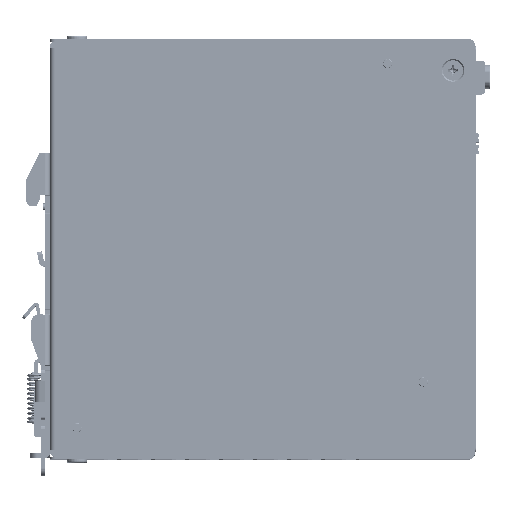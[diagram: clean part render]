
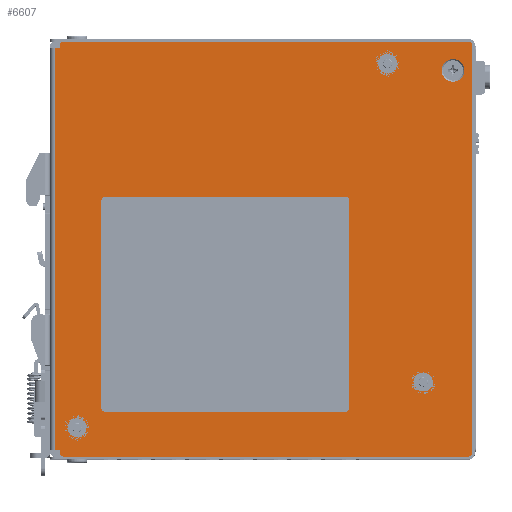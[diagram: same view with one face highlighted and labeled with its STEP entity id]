
A CAD part, top view. The second image highlights one B-rep face of the part: STEP entity #6607.
In plain terms, the highlighted planar face has unit normal (0, 0, 1).
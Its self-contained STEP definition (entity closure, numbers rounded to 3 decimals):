
#1264=DIRECTION('',(0.,-1.,0.));
#1265=VECTOR('',#1264,118.4);
#1266=CARTESIAN_POINT('',(1.5,59.2,0.));
#1267=LINE('',#1266,#1265);
#1300=CARTESIAN_POINT('',(123.5,-60.1,0.));
#1301=DIRECTION('',(0.,0.,-1.));
#1302=DIRECTION('',(1.,0.,0.));
#1303=AXIS2_PLACEMENT_3D('',#1300,#1301,#1302);
#1308=DIRECTION('',(-1.,0.,0.));
#1309=VECTOR('',#1308,119.5);
#1310=CARTESIAN_POINT('',(123.5,-61.2,0.));
#1311=LINE('',#1310,#1309);
#1315=CARTESIAN_POINT('',(4.,-60.2,0.));
#1316=DIRECTION('',(0.,0.,-1.));
#1317=DIRECTION('',(0.,-1.,0.));
#1318=AXIS2_PLACEMENT_3D('',#1315,#1316,#1317);
#1323=DIRECTION('',(0.,1.,0.));
#1324=VECTOR('',#1323,0.7);
#1325=CARTESIAN_POINT('',(3.,-60.2,0.));
#1326=LINE('',#1325,#1324);
#1330=CARTESIAN_POINT('',(2.7,-59.5,0.));
#1331=DIRECTION('',(0.,0.,1.));
#1332=DIRECTION('',(1.,0.,0.));
#1333=AXIS2_PLACEMENT_3D('',#1330,#1331,#1332);
#1338=DIRECTION('',(1.,0.,0.));
#1339=VECTOR('',#1338,1.5);
#1340=CARTESIAN_POINT('',(1.5,59.2,0.));
#1341=LINE('',#1340,#1339);
#1345=CARTESIAN_POINT('',(4.,60.2,0.));
#1346=DIRECTION('',(0.,0.,-1.));
#1347=DIRECTION('',(-1.,0.,0.));
#1348=AXIS2_PLACEMENT_3D('',#1345,#1346,#1347);
#1353=DIRECTION('',(1.,0.,0.));
#1354=VECTOR('',#1353,119.5);
#1355=CARTESIAN_POINT('',(4.,61.2,0.));
#1356=LINE('',#1355,#1354);
#1360=CARTESIAN_POINT('',(123.5,60.1,0.));
#1361=DIRECTION('',(0.,0.,-1.));
#1362=DIRECTION('',(0.,1.,0.));
#1363=AXIS2_PLACEMENT_3D('',#1360,#1361,#1362);
#1368=DIRECTION('',(0.,-1.,0.));
#1369=VECTOR('',#1368,98.5);
#1370=CARTESIAN_POINT('',(124.6,60.1,0.));
#1371=LINE('',#1370,#1369);
#1375=DIRECTION('',(0.,-1.,0.));
#1376=VECTOR('',#1375,21.7);
#1377=CARTESIAN_POINT('',(124.6,-38.4,0.));
#1378=LINE('',#1377,#1376);
#1382=CARTESIAN_POINT('',(118.9,52.7,0.));
#1383=DIRECTION('',(0.,0.,1.));
#1384=DIRECTION('',(-1.,0.,0.));
#1385=AXIS2_PLACEMENT_3D('',#1382,#1383,#1384);
#1390=CARTESIAN_POINT('',(118.9,52.7,0.));
#1391=DIRECTION('',(0.,0.,1.));
#1392=DIRECTION('',(1.,0.,0.));
#1393=AXIS2_PLACEMENT_3D('',#1390,#1391,#1392);
#1398=CARTESIAN_POINT('',(8.,-52.7,0.));
#1399=DIRECTION('',(0.,0.,1.));
#1400=DIRECTION('',(1.,0.,0.));
#1401=AXIS2_PLACEMENT_3D('',#1398,#1399,#1400);
#1406=CARTESIAN_POINT('',(8.,-52.7,0.));
#1407=DIRECTION('',(0.,0.,1.));
#1408=DIRECTION('',(-1.,0.,0.));
#1409=AXIS2_PLACEMENT_3D('',#1406,#1407,#1408);
#1414=CARTESIAN_POINT('',(99.6,54.7,0.));
#1415=DIRECTION('',(0.,0.,1.));
#1416=DIRECTION('',(1.,0.,0.));
#1417=AXIS2_PLACEMENT_3D('',#1414,#1415,#1416);
#1422=CARTESIAN_POINT('',(99.6,54.7,0.));
#1423=DIRECTION('',(0.,0.,1.));
#1424=DIRECTION('',(-1.,0.,0.));
#1425=AXIS2_PLACEMENT_3D('',#1422,#1423,#1424);
#1430=DIRECTION('',(0.,-1.,0.));
#1431=VECTOR('',#1430,20.);
#1432=CARTESIAN_POINT('',(15.,-9.7,0.));
#1433=LINE('',#1432,#1431);
#1437=DIRECTION('',(1.,0.,0.));
#1438=VECTOR('',#1437,0.2);
#1439=CARTESIAN_POINT('',(15.,-29.7,0.));
#1440=LINE('',#1439,#1438);
#1444=DIRECTION('',(0.,1.,0.));
#1445=VECTOR('',#1444,20.);
#1446=CARTESIAN_POINT('',(15.2,-29.7,0.));
#1447=LINE('',#1446,#1445);
#1451=DIRECTION('',(-1.,0.,0.));
#1452=VECTOR('',#1451,0.2);
#1453=CARTESIAN_POINT('',(15.2,-9.7,0.));
#1454=LINE('',#1453,#1452);
#1458=DIRECTION('',(0.,-1.,0.));
#1459=VECTOR('',#1458,3.5);
#1460=CARTESIAN_POINT('',(15.,-44.7,0.));
#1461=LINE('',#1460,#1459);
#1465=DIRECTION('',(1.,0.,0.));
#1466=VECTOR('',#1465,3.5);
#1467=CARTESIAN_POINT('',(15.,-48.2,0.));
#1468=LINE('',#1467,#1466);
#1472=DIRECTION('',(0.,1.,0.));
#1473=VECTOR('',#1472,0.2);
#1474=CARTESIAN_POINT('',(18.5,-48.2,0.));
#1475=LINE('',#1474,#1473);
#1479=DIRECTION('',(-1.,0.,0.));
#1480=VECTOR('',#1479,3.3);
#1481=CARTESIAN_POINT('',(18.5,-48.,0.));
#1482=LINE('',#1481,#1480);
#1486=DIRECTION('',(0.,1.,0.));
#1487=VECTOR('',#1486,3.3);
#1488=CARTESIAN_POINT('',(15.2,-48.,0.));
#1489=LINE('',#1488,#1487);
#1493=DIRECTION('',(-1.,0.,0.));
#1494=VECTOR('',#1493,0.2);
#1495=CARTESIAN_POINT('',(15.2,-44.7,0.));
#1496=LINE('',#1495,#1494);
#1500=CARTESIAN_POINT('',(110.1,-39.2,0.));
#1501=DIRECTION('',(0.,0.,1.));
#1502=DIRECTION('',(1.,0.,0.));
#1503=AXIS2_PLACEMENT_3D('',#1500,#1501,#1502);
#1508=CARTESIAN_POINT('',(110.1,-39.2,0.));
#1509=DIRECTION('',(0.,0.,1.));
#1510=DIRECTION('',(-1.,0.,0.));
#1511=AXIS2_PLACEMENT_3D('',#1508,#1509,#1510);
#1704=DIRECTION('',(0.,-1.,0.));
#1705=VECTOR('',#1704,1.);
#1706=CARTESIAN_POINT('',(3.,60.2,0.));
#1707=LINE('',#1706,#1705);
#1718=DIRECTION('',(1.,0.,0.));
#1719=VECTOR('',#1718,1.2);
#1720=CARTESIAN_POINT('',(1.5,-59.2,0.));
#1721=LINE('',#1720,#1719);
#5216=CARTESIAN_POINT('',(1.5,-59.2,0.));
#5217=VERTEX_POINT('',#5216);
#5218=CARTESIAN_POINT('',(1.5,59.2,0.));
#5219=VERTEX_POINT('',#5218);
#5220=CARTESIAN_POINT('',(3.,59.2,0.));
#5221=VERTEX_POINT('',#5220);
#5224=CARTESIAN_POINT('',(124.6,-60.1,0.));
#5225=CARTESIAN_POINT('',(123.5,-61.2,0.));
#5226=VERTEX_POINT('',#5224);
#5227=VERTEX_POINT('',#5225);
#5228=CARTESIAN_POINT('',(4.,-61.2,0.));
#5229=VERTEX_POINT('',#5228);
#5230=CARTESIAN_POINT('',(3.,-60.2,0.));
#5231=VERTEX_POINT('',#5230);
#5232=CARTESIAN_POINT('',(3.,-59.5,0.));
#5233=VERTEX_POINT('',#5232);
#5234=CARTESIAN_POINT('',(2.7,-59.2,0.));
#5235=VERTEX_POINT('',#5234);
#5236=CARTESIAN_POINT('',(3.,60.2,0.));
#5237=VERTEX_POINT('',#5236);
#5238=CARTESIAN_POINT('',(4.,61.2,0.));
#5239=VERTEX_POINT('',#5238);
#5240=CARTESIAN_POINT('',(123.5,61.2,0.));
#5241=VERTEX_POINT('',#5240);
#5242=CARTESIAN_POINT('',(124.6,60.1,0.));
#5243=VERTEX_POINT('',#5242);
#5244=CARTESIAN_POINT('',(124.6,-38.4,0.));
#5245=VERTEX_POINT('',#5244);
#5246=CARTESIAN_POINT('',(115.55,52.7,0.));
#5247=CARTESIAN_POINT('',(122.25,52.7,0.));
#5248=VERTEX_POINT('',#5246);
#5249=VERTEX_POINT('',#5247);
#5250=CARTESIAN_POINT('',(10.8,-52.7,0.));
#5251=CARTESIAN_POINT('',(5.2,-52.7,0.));
#5252=VERTEX_POINT('',#5250);
#5253=VERTEX_POINT('',#5251);
#5254=CARTESIAN_POINT('',(102.4,54.7,0.));
#5255=CARTESIAN_POINT('',(96.8,54.7,0.));
#5256=VERTEX_POINT('',#5254);
#5257=VERTEX_POINT('',#5255);
#5258=CARTESIAN_POINT('',(15.,-9.7,0.));
#5259=CARTESIAN_POINT('',(15.,-29.7,0.));
#5260=VERTEX_POINT('',#5258);
#5261=VERTEX_POINT('',#5259);
#5262=CARTESIAN_POINT('',(15.2,-29.7,0.));
#5263=VERTEX_POINT('',#5262);
#5264=CARTESIAN_POINT('',(15.2,-9.7,0.));
#5265=VERTEX_POINT('',#5264);
#5266=CARTESIAN_POINT('',(15.,-44.7,0.));
#5267=CARTESIAN_POINT('',(15.,-48.2,0.));
#5268=VERTEX_POINT('',#5266);
#5269=VERTEX_POINT('',#5267);
#5270=CARTESIAN_POINT('',(18.5,-48.2,0.));
#5271=VERTEX_POINT('',#5270);
#5272=CARTESIAN_POINT('',(18.5,-48.,0.));
#5273=VERTEX_POINT('',#5272);
#5274=CARTESIAN_POINT('',(15.2,-48.,0.));
#5275=VERTEX_POINT('',#5274);
#5276=CARTESIAN_POINT('',(15.2,-44.7,0.));
#5277=VERTEX_POINT('',#5276);
#5278=CARTESIAN_POINT('',(112.9,-39.2,0.));
#5279=CARTESIAN_POINT('',(107.3,-39.2,0.));
#5280=VERTEX_POINT('',#5278);
#5281=VERTEX_POINT('',#5279);
#6526=CARTESIAN_POINT('',(0.,0.,0.));
#6527=DIRECTION('',(0.,0.,1.));
#6528=DIRECTION('',(1.,0.,0.));
#6529=AXIS2_PLACEMENT_3D('',#6526,#6527,#6528);
#6530=PLANE('',#6529);
#6532=ORIENTED_EDGE('',*,*,#6531,.T.);
#6534=ORIENTED_EDGE('',*,*,#6533,.T.);
#6536=ORIENTED_EDGE('',*,*,#6535,.T.);
#6538=ORIENTED_EDGE('',*,*,#6537,.T.);
#6540=ORIENTED_EDGE('',*,*,#6539,.T.);
#6542=ORIENTED_EDGE('',*,*,#6541,.F.);
#6543=ORIENTED_EDGE('',*,*,#6493,.F.);
#6544=ORIENTED_EDGE('',*,*,#6516,.T.);
#6546=ORIENTED_EDGE('',*,*,#6545,.F.);
#6548=ORIENTED_EDGE('',*,*,#6547,.T.);
#6550=ORIENTED_EDGE('',*,*,#6549,.T.);
#6552=ORIENTED_EDGE('',*,*,#6551,.T.);
#6554=ORIENTED_EDGE('',*,*,#6553,.T.);
#6556=ORIENTED_EDGE('',*,*,#6555,.T.);
#6557=EDGE_LOOP('',(#6532,#6534,#6536,#6538,#6540,#6542,#6543,#6544,#6546,#6548,
#6550,#6552,#6554,#6556));
#6558=FACE_OUTER_BOUND('',#6557,.F.);
#6560=ORIENTED_EDGE('',*,*,#6559,.T.);
#6562=ORIENTED_EDGE('',*,*,#6561,.T.);
#6563=EDGE_LOOP('',(#6560,#6562));
#6564=FACE_BOUND('',#6563,.F.);
#6566=ORIENTED_EDGE('',*,*,#6565,.T.);
#6568=ORIENTED_EDGE('',*,*,#6567,.T.);
#6569=EDGE_LOOP('',(#6566,#6568));
#6570=FACE_BOUND('',#6569,.F.);
#6572=ORIENTED_EDGE('',*,*,#6571,.T.);
#6574=ORIENTED_EDGE('',*,*,#6573,.T.);
#6575=EDGE_LOOP('',(#6572,#6574));
#6576=FACE_BOUND('',#6575,.F.);
#6578=ORIENTED_EDGE('',*,*,#6577,.T.);
#6580=ORIENTED_EDGE('',*,*,#6579,.T.);
#6582=ORIENTED_EDGE('',*,*,#6581,.T.);
#6584=ORIENTED_EDGE('',*,*,#6583,.T.);
#6585=EDGE_LOOP('',(#6578,#6580,#6582,#6584));
#6586=FACE_BOUND('',#6585,.F.);
#6588=ORIENTED_EDGE('',*,*,#6587,.T.);
#6590=ORIENTED_EDGE('',*,*,#6589,.T.);
#6592=ORIENTED_EDGE('',*,*,#6591,.T.);
#6594=ORIENTED_EDGE('',*,*,#6593,.T.);
#6596=ORIENTED_EDGE('',*,*,#6595,.T.);
#6598=ORIENTED_EDGE('',*,*,#6597,.T.);
#6599=EDGE_LOOP('',(#6588,#6590,#6592,#6594,#6596,#6598));
#6600=FACE_BOUND('',#6599,.F.);
#6602=ORIENTED_EDGE('',*,*,#6601,.T.);
#6604=ORIENTED_EDGE('',*,*,#6603,.T.);
#6605=EDGE_LOOP('',(#6602,#6604));
#6606=FACE_BOUND('',#6605,.F.);
#6607=ADVANCED_FACE('',(#6558,#6564,#6570,#6576,#6586,#6600,#6606),#6530,.T.);
#1304=CIRCLE('',#1303,1.1);
#1319=CIRCLE('',#1318,1.);
#1334=CIRCLE('',#1333,0.3);
#1349=CIRCLE('',#1348,1.);
#1364=CIRCLE('',#1363,1.1);
#1386=CIRCLE('',#1385,3.35);
#1394=CIRCLE('',#1393,3.35);
#1402=CIRCLE('',#1401,2.8);
#1410=CIRCLE('',#1409,2.8);
#1418=CIRCLE('',#1417,2.8);
#1426=CIRCLE('',#1425,2.8);
#1504=CIRCLE('',#1503,2.8);
#1512=CIRCLE('',#1511,2.8);
#6493=EDGE_CURVE('',#5219,#5217,#1267,.T.);
#6516=EDGE_CURVE('',#5219,#5221,#1341,.T.);
#6531=EDGE_CURVE('',#5226,#5227,#1304,.T.);
#6533=EDGE_CURVE('',#5227,#5229,#1311,.T.);
#6535=EDGE_CURVE('',#5229,#5231,#1319,.T.);
#6537=EDGE_CURVE('',#5231,#5233,#1326,.T.);
#6539=EDGE_CURVE('',#5233,#5235,#1334,.T.);
#6541=EDGE_CURVE('',#5217,#5235,#1721,.T.);
#6545=EDGE_CURVE('',#5237,#5221,#1707,.T.);
#6547=EDGE_CURVE('',#5237,#5239,#1349,.T.);
#6549=EDGE_CURVE('',#5239,#5241,#1356,.T.);
#6551=EDGE_CURVE('',#5241,#5243,#1364,.T.);
#6553=EDGE_CURVE('',#5243,#5245,#1371,.T.);
#6555=EDGE_CURVE('',#5245,#5226,#1378,.T.);
#6559=EDGE_CURVE('',#5248,#5249,#1386,.T.);
#6561=EDGE_CURVE('',#5249,#5248,#1394,.T.);
#6565=EDGE_CURVE('',#5252,#5253,#1402,.T.);
#6567=EDGE_CURVE('',#5253,#5252,#1410,.T.);
#6571=EDGE_CURVE('',#5256,#5257,#1418,.T.);
#6573=EDGE_CURVE('',#5257,#5256,#1426,.T.);
#6577=EDGE_CURVE('',#5260,#5261,#1433,.T.);
#6579=EDGE_CURVE('',#5261,#5263,#1440,.T.);
#6581=EDGE_CURVE('',#5263,#5265,#1447,.T.);
#6583=EDGE_CURVE('',#5265,#5260,#1454,.T.);
#6587=EDGE_CURVE('',#5268,#5269,#1461,.T.);
#6589=EDGE_CURVE('',#5269,#5271,#1468,.T.);
#6591=EDGE_CURVE('',#5271,#5273,#1475,.T.);
#6593=EDGE_CURVE('',#5273,#5275,#1482,.T.);
#6595=EDGE_CURVE('',#5275,#5277,#1489,.T.);
#6597=EDGE_CURVE('',#5277,#5268,#1496,.T.);
#6601=EDGE_CURVE('',#5280,#5281,#1504,.T.);
#6603=EDGE_CURVE('',#5281,#5280,#1512,.T.);
